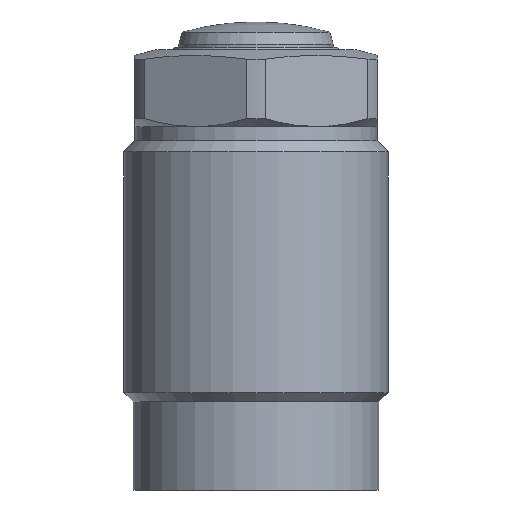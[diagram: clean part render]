
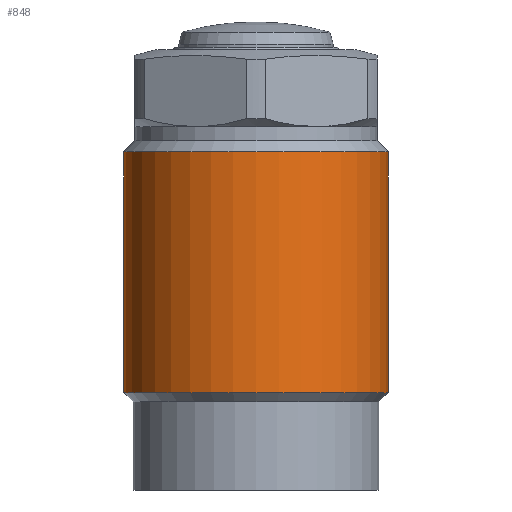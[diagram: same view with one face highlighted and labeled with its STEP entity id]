
A CAD part, front view. The second image highlights one B-rep face of the part: STEP entity #848.
In plain terms, the highlighted cylindrical face has radius 12 mm (diameter 24 mm), a partial arc.
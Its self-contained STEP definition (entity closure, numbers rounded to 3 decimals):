
#785=CARTESIAN_POINT('',(-12.0,0.0,-31.15));
#786=VERTEX_POINT('',#785);
#794=CARTESIAN_POINT('',(12.0,0.0,-31.15));
#795=VERTEX_POINT('',#794);
#802=CARTESIAN_POINT('',(0.0,0.0,-31.15));
#803=DIRECTION('',(0.0,0.0,1.0));
#804=DIRECTION('',(1.0,0.0,-0.0));
#805=AXIS2_PLACEMENT_3D('',#802,#803,#804);
#806=CIRCLE('',#805,12.0);
#807=EDGE_CURVE('no 1483',#786,#795,#806,.T.);
#817=CARTESIAN_POINT('',(-12.,0.0,-9.3));
#818=VERTEX_POINT('',#817);
#819=CARTESIAN_POINT('',(-12.,0.0,-31.15));
#820=DIRECTION('',(0.,-0.0,1.0));
#821=VECTOR('',#820,1.0);
#822=LINE('',#819,#821);
#823=EDGE_CURVE('no 1493',#786,#818,#822,.T.);
#824=ORIENTED_EDGE('',*,*,#823,.F.);
#825=ORIENTED_EDGE('',*,*,#807,.T.);
#826=CARTESIAN_POINT('',(12.,0.0,-9.3));
#827=VERTEX_POINT('',#826);
#828=CARTESIAN_POINT('',(12.,0.0,-31.15));
#829=DIRECTION('',(0.,0.0,1.0));
#830=VECTOR('',#829,1.0);
#831=LINE('',#828,#830);
#832=EDGE_CURVE('no 1501',#795,#827,#831,.T.);
#833=ORIENTED_EDGE('',*,*,#832,.T.);
#834=CARTESIAN_POINT('',(0.0,0.0,-9.3));
#835=DIRECTION('',(0.0,0.0,1.0));
#836=DIRECTION('',(1.0,0.0,-0.0));
#837=AXIS2_PLACEMENT_3D('',#834,#835,#836);
#838=CIRCLE('',#837,12.);
#839=EDGE_CURVE('no 1505',#818,#827,#838,.T.);
#840=ORIENTED_EDGE('',*,*,#839,.F.);
#841=EDGE_LOOP('',(#824,#825,#833,#840));
#842=FACE_OUTER_BOUND('',#841,.T.);
#843=CARTESIAN_POINT('',(0.0,0.0,4.2));
#844=DIRECTION('',(0.0,0.0,1.0));
#845=DIRECTION('',(0.0,1.0,-0.0));
#846=AXIS2_PLACEMENT_3D('',#843,#844,#845);
#847=CYLINDRICAL_SURFACE('',#846,12.);
#848=ADVANCED_FACE('no 1486',(#842),#847,.T.);
